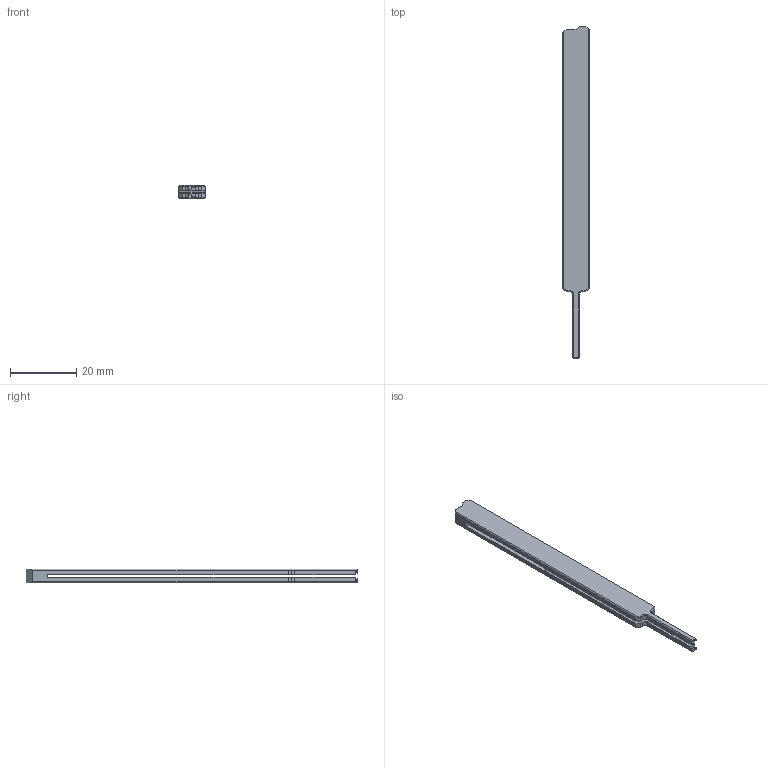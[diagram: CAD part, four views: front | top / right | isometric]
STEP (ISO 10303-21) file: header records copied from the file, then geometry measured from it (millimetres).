
FILE_DESCRIPTION (( 'STEP AP203' ), '1' );
FILE_NAME ('90616 MHF 4L 08 TYPE MATING AND UNMATING TWEEZER.STEP', '2020-04-20T06:07:14', ( '' ), ( '' ), 'SwSTEP 2.0', 'SolidWorks 2017', '' );
FILE_SCHEMA (( 'CONFIG_CONTROL_DESIGN' ));
Length unit declared in the file: millimetre
Products named in the file (1): 90616 MHF 4L 08 TYPE MATING AND UNMATING TWEEZER
Bounding box: 8 x 100 x 4.2 mm (x, y, z)
Volume: 2193 mm3; surface area: 3249.7 mm2
Topology: 1 solids, 1 shells, 79 faces, 215 edges, 138 vertices
Faces by surface type: plane 63, cylinder 12, cone 4
Entity records: 2524 total; most frequent: CARTESIAN_POINT 439, ORIENTED_EDGE 430, DIRECTION 399, EDGE_CURVE 215, VECTOR 187, LINE 187, VERTEX_POINT 138, AXIS2_PLACEMENT_3D 106
